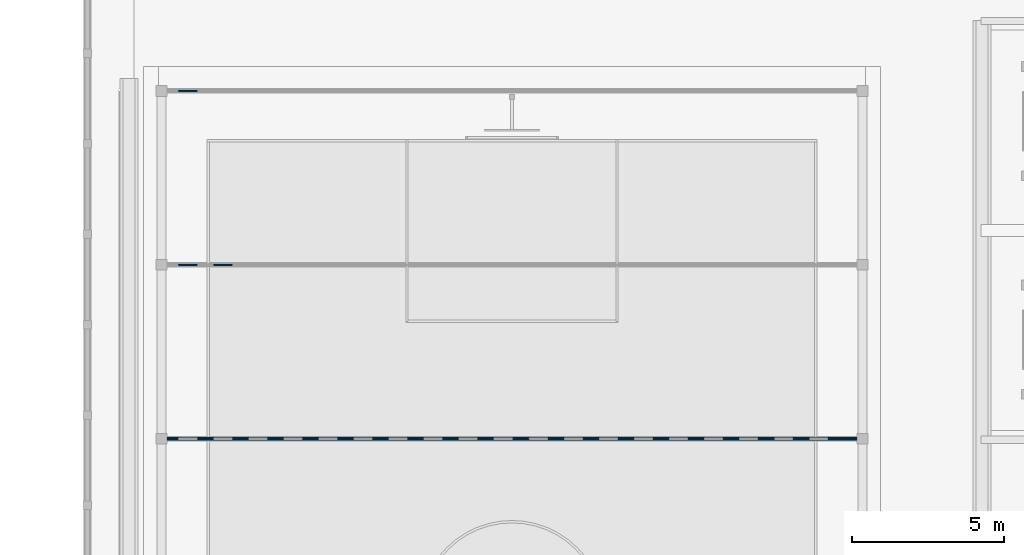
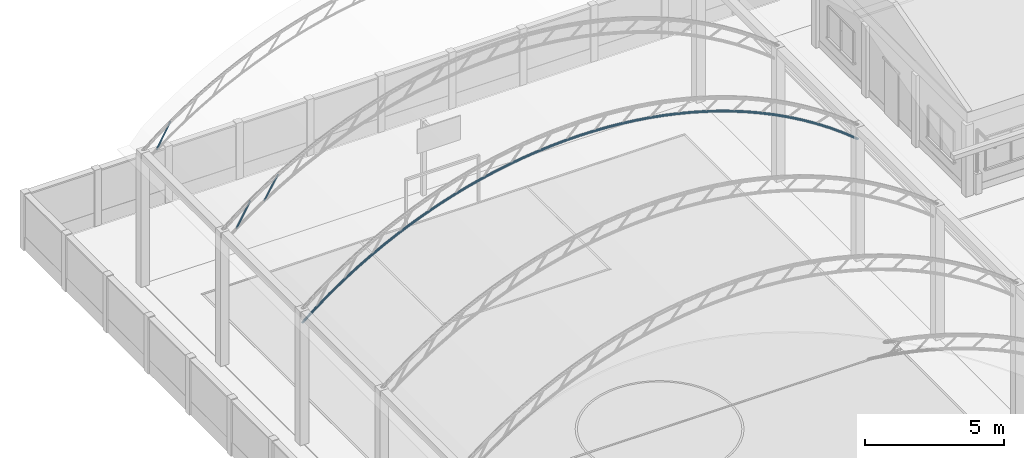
# One storey, part 28 of 177: 4 beams.
"""IFC4 building model written with IfcOpenShell, lengths in metres."""

from ifc_helpers import new_model, si_unit, origin, origin_with_axes, place, context, subcontext, project, spatial, triangles, element, save


model = new_model("IFC4")

# Units and contexts
model_context = context("Model", 3, precision=1e-05, world=origin_with_axes())
body_context = subcontext(model_context, "Body", "Model", "MODEL_VIEW")
ifc_project = project(units=[si_unit("LENGTHUNIT", "METRE"), si_unit("AREAUNIT", "SQUARE_METRE"), si_unit("VOLUMEUNIT", "CUBIC_METRE"), si_unit("PLANEANGLEUNIT", "RADIAN")], contexts=[model_context])

# Site, building, storey
site_placement = place(None, origin_with_axes())
site = spatial("IfcSite", under=ifc_project, at=site_placement, Name="Predio Los Mangos - Morales, San Martín", CompositionType="ELEMENT")
building_placement = place(site_placement, origin())
building = spatial("IfcBuilding", under=site, at=building_placement, Name="Hogar de Refugio Temporal", CompositionType="ELEMENT")
storey_placement = place(building_placement, origin())
storey = spatial("IfcBuildingStorey", under=building, at=storey_placement, Name="NIVEL 1 (NPT +0.00)", CompositionType="ELEMENT", Elevation=0.0)

# Beams
beam_1_placement = place(storey_placement, origin())
element("IfcBeam", 1, at=beam_1_placement, inside=storey, Name="arco", ObjectType="Viga", PredefinedType="BEAM", context=body_context, shape_type="Tessellation", body=[
    triangles([(3.4843, 115.5766, 5.3695), (3.4729, 115.5583, 5.3838), (3.4687, 115.5333, 5.389), (3.4729, 115.5083, 5.3838), (3.4843, 115.49, 5.3695), (3.5, 115.4833, 5.35), (3.5157, 115.49, 5.3305), (3.5271, 115.5083, 5.3162), (3.5313, 115.5333, 5.311), (3.5271, 115.5583, 5.3162), (3.5157, 115.5766, 5.3305), (3.5, 115.5833, 5.35), (4.0622, 115.5766, 5.8339), (4.0511, 115.5583, 5.8484), (4.047, 115.5333, 5.8537), (4.0511, 115.5083, 5.8484), (4.0622, 115.49, 5.8339), (4.0775, 115.4833, 5.8141), (4.0928, 115.49, 5.7943), (4.1039, 115.5083, 5.7798), (4.108, 115.5333, 5.7745), (4.1039, 115.5583, 5.7798), (4.0928, 115.5766, 5.7943), (4.0775, 115.5833, 5.8141), (4.6405, 115.5766, 6.2612), (4.63, 115.5583, 6.2761), (4.6261, 115.5333, 6.2816), (4.63, 115.5083, 6.2761), (4.6405, 115.49, 6.2612), (4.655, 115.4833, 6.2408), (4.6695, 115.49, 6.2204), (4.68, 115.5083, 6.2055), (4.6839, 115.5333, 6.2), (4.68, 115.5583, 6.2055), (4.6695, 115.5766, 6.2204), (4.655, 115.5833, 6.2408), (5.2188, 115.5766, 6.6543), (5.2088, 115.5583, 6.6696), (5.2052, 115.5333, 6.6752), (5.2088, 115.5083, 6.6696), (5.2188, 115.49, 6.6543), (5.2325, 115.4833, 6.6333), (5.2462, 115.49, 6.6124), (5.2562, 115.5083, 6.5971), (5.2598, 115.5333, 6.5915), (5.2562, 115.5583, 6.5971), (5.2462, 115.5766, 6.6124), (5.2325, 115.5833, 6.6333), (5.7971, 115.5766, 7.0157), (5.7877, 115.5583, 7.0314), (5.7843, 115.5333, 7.0372), (5.7877, 115.5083, 7.0314), (5.7971, 115.49, 7.0157), (5.81, 115.4833, 6.9943), (5.8229, 115.49, 6.9729), (5.8323, 115.5083, 6.9572), (5.8357, 115.5333, 6.9514), (5.8323, 115.5583, 6.9572), (5.8229, 115.5766, 6.9729), (5.81, 115.5833, 6.9943), (6.3755, 115.5766, 7.3478), (6.3666, 115.5583, 7.3638), (6.3634, 115.5333, 7.3697), (6.3666, 115.5083, 7.3638), (6.3755, 115.49, 7.3478), (6.3875, 115.4833, 7.3259), (6.3995, 115.49, 7.304), (6.4084, 115.5083, 7.2879), (6.4116, 115.5333, 7.282), (6.4084, 115.5583, 7.2879), (6.3995, 115.5766, 7.304), (6.3875, 115.5833, 7.3259), (6.9538, 115.5766, 7.6522), (6.9455, 115.5583, 7.6685), (6.9425, 115.5333, 7.6745), (6.9455, 115.5083, 7.6685), (6.9538, 115.49, 7.6522), (6.965, 115.4833, 7.6298), (6.9762, 115.49, 7.6075), (6.9845, 115.5083, 7.5912), (6.9875, 115.5333, 7.5852), (6.9845, 115.5583, 7.5912), (6.9762, 115.5766, 7.6075), (6.965, 115.5833, 7.6298), (7.5321, 115.5766, 7.9305), (7.5244, 115.5583, 7.9471), (7.5216, 115.5333, 7.9532), (7.5244, 115.5083, 7.9471), (7.5321, 115.49, 7.9305), (7.5425, 115.4833, 7.9077), (7.5529, 115.49, 7.885), (7.5606, 115.5083, 7.8684), (7.5634, 115.5333, 7.8623), (7.5606, 115.5583, 7.8684), (7.5529, 115.5766, 7.885), (7.5425, 115.5833, 7.9077), (8.1104, 115.5766, 8.184), (8.1033, 115.5583, 8.2009), (8.1007, 115.5333, 8.2071), (8.1033, 115.5083, 8.2009), (8.1104, 115.49, 8.184), (8.12, 115.4833, 8.1609), (8.1296, 115.49, 8.1379), (8.1367, 115.5083, 8.121), (8.1393, 115.5333, 8.1148), (8.1367, 115.5583, 8.121), (8.1296, 115.5766, 8.1379), (8.12, 115.5833, 8.1609), (8.6887, 115.5766, 8.4139), (8.6822, 115.5583, 8.431), (8.6798, 115.5333, 8.4373), (8.6822, 115.5083, 8.431), (8.6887, 115.49, 8.4139), (8.6975, 115.4833, 8.3905), (8.7063, 115.49, 8.3671), (8.7128, 115.5083, 8.35), (8.7152, 115.5333, 8.3437), (8.7128, 115.5583, 8.35), (8.7063, 115.5766, 8.3671), (8.6975, 115.5833, 8.3905), (9.267, 115.5766, 8.6211), (9.2611, 115.5583, 8.6384), (9.2589, 115.5333, 8.6447), (9.2611, 115.5083, 8.6384), (9.267, 115.49, 8.6211), (9.275, 115.4833, 8.5974), (9.283, 115.49, 8.5737), (9.2889, 115.5083, 8.5564), (9.2911, 115.5333, 8.55), (9.2889, 115.5583, 8.5564), (9.283, 115.5766, 8.5737), (9.275, 115.5833, 8.5974), (9.8453, 115.5766, 8.8064), (9.84, 115.5583, 8.8239), (9.838, 115.5333, 8.8303), (9.84, 115.5083, 8.8239), (9.8453, 115.49, 8.8064), (9.8525, 115.4833, 8.7824), (9.8597, 115.49, 8.7585), (9.865, 115.5083, 8.741), (9.867, 115.5333, 8.7346), (9.865, 115.5583, 8.741), (9.8597, 115.5766, 8.7585), (9.8525, 115.5833, 8.7824), (10.4236, 115.5766, 8.9705), (10.4189, 115.5583, 8.9882), (10.4172, 115.5333, 8.9947), (10.4189, 115.5083, 8.9882), (10.4236, 115.49, 8.9705), (10.43, 115.4833, 8.9463), (10.4364, 115.49, 8.9222), (10.4411, 115.5083, 8.9045), (10.4429, 115.5333, 8.898), (10.4411, 115.5583, 8.9045), (10.4364, 115.5766, 8.9222), (10.43, 115.5833, 8.9463), (11.0019, 115.5766, 9.1141), (10.9978, 115.5583, 9.1319), (10.9963, 115.5333, 9.1384), (10.9978, 115.5083, 9.1319), (11.0019, 115.49, 9.1141), (11.0075, 115.4833, 9.0897), (11.0131, 115.49, 9.0653), (11.0172, 115.5083, 9.0475), (11.0187, 115.5333, 9.041), (11.0172, 115.5583, 9.0475), (11.0131, 115.5766, 9.0653), (11.0075, 115.5833, 9.0897), (11.5802, 115.5766, 9.2375), (11.5767, 115.5583, 9.2555), (11.5754, 115.5333, 9.2621), (11.5767, 115.5083, 9.2555), (11.5802, 115.49, 9.2375), (11.585, 115.4833, 9.213), (11.5898, 115.49, 9.1885), (11.5933, 115.5083, 9.1705), (11.5946, 115.5333, 9.1639), (11.5933, 115.5583, 9.1705), (11.5898, 115.5766, 9.1885), (11.585, 115.5833, 9.213), (12.1585, 115.5766, 9.3413), (12.1555, 115.5583, 9.3594), (12.1545, 115.5333, 9.366), (12.1555, 115.5083, 9.3594), (12.1585, 115.49, 9.3413), (12.1625, 115.4833, 9.3166), (12.1665, 115.49, 9.292), (12.1695, 115.5083, 9.2739), (12.1705, 115.5333, 9.2673), (12.1695, 115.5583, 9.2739), (12.1665, 115.5766, 9.292), (12.1625, 115.5833, 9.3166), (12.7368, 115.5766, 9.4258), (12.7344, 115.5583, 9.4439), (12.7336, 115.5333, 9.4506), (12.7344, 115.5083, 9.4439), (12.7368, 115.49, 9.4258), (12.74, 115.4833, 9.401), (12.7432, 115.49, 9.3762), (12.7456, 115.5083, 9.3581), (12.7464, 115.5333, 9.3514), (12.7456, 115.5583, 9.3581), (12.7432, 115.5766, 9.3762), (12.74, 115.5833, 9.401), (13.3151, 115.5766, 9.4912), (13.3133, 115.5583, 9.5094), (13.3127, 115.5333, 9.5161), (13.3133, 115.5083, 9.5094), (13.3151, 115.49, 9.4912), (13.3175, 115.4833, 9.4663), (13.3199, 115.49, 9.4415), (13.3217, 115.5083, 9.4232), (13.3223, 115.5333, 9.4166), (13.3217, 115.5583, 9.4232), (13.3199, 115.5766, 9.4415), (13.3175, 115.5833, 9.4663), (13.8934, 115.5766, 9.5378), (13.8922, 115.5583, 9.5561), (13.8918, 115.5333, 9.5628), (13.8922, 115.5083, 9.5561), (13.8934, 115.49, 9.5378), (13.895, 115.4833, 9.5129), (13.8966, 115.49, 9.4879), (13.8978, 115.5083, 9.4697), (13.8982, 115.5333, 9.463), (13.8978, 115.5583, 9.4697), (13.8966, 115.5766, 9.4879), (13.895, 115.5833, 9.5129), (14.4717, 115.5766, 9.5657), (14.4711, 115.5583, 9.584), (14.4709, 115.5333, 9.5907), (14.4711, 115.5083, 9.584), (14.4717, 115.49, 9.5657), (14.4725, 115.4833, 9.5407), (14.4733, 115.49, 9.5157), (14.4739, 115.5083, 9.4974), (14.4741, 115.5333, 9.4907), (14.4739, 115.5583, 9.4974), (14.4733, 115.5766, 9.5157), (14.4725, 115.5833, 9.5407), (15.05, 115.5766, 9.575), (15.05, 115.5583, 9.5933), (15.05, 115.5333, 9.6), (15.05, 115.5083, 9.5933), (15.05, 115.49, 9.575), (15.05, 115.4833, 9.55), (15.05, 115.49, 9.525), (15.05, 115.5083, 9.5067), (15.05, 115.5333, 9.5), (15.05, 115.5583, 9.5067), (15.05, 115.5766, 9.525), (15.05, 115.5833, 9.55), (15.6283, 115.5766, 9.5657), (15.6289, 115.5583, 9.584), (15.6291, 115.5333, 9.5907), (15.6289, 115.5083, 9.584), (15.6283, 115.49, 9.5657), (15.6275, 115.4833, 9.5407), (15.6267, 115.49, 9.5157), (15.6261, 115.5083, 9.4974), (15.6259, 115.5333, 9.4907), (15.6261, 115.5583, 9.4974), (15.6267, 115.5766, 9.5157), (15.6275, 115.5833, 9.5407), (16.2066, 115.5766, 9.5378), (16.2078, 115.5583, 9.5561), (16.2082, 115.5333, 9.5628), (16.2078, 115.5083, 9.5561), (16.2066, 115.49, 9.5378), (16.205, 115.4833, 9.5129), (16.2034, 115.49, 9.4879), (16.2022, 115.5083, 9.4697), (16.2018, 115.5333, 9.463), (16.2022, 115.5583, 9.4697), (16.2034, 115.5766, 9.4879), (16.205, 115.5833, 9.5129), (16.7849, 115.5766, 9.4912), (16.7867, 115.5583, 9.5094), (16.7873, 115.5333, 9.5161), (16.7867, 115.5083, 9.5094), (16.7849, 115.49, 9.4912), (16.7825, 115.4833, 9.4663), (16.7801, 115.49, 9.4415), (16.7783, 115.5083, 9.4232), (16.7777, 115.5333, 9.4166), (16.7783, 115.5583, 9.4232), (16.7801, 115.5766, 9.4415), (16.7825, 115.5833, 9.4663), (17.3632, 115.5766, 9.4258), (17.3656, 115.5583, 9.4439), (17.3664, 115.5333, 9.4506), (17.3656, 115.5083, 9.4439), (17.3632, 115.49, 9.4258), (17.36, 115.4833, 9.401), (17.3568, 115.49, 9.3762), (17.3544, 115.5083, 9.3581), (17.3536, 115.5333, 9.3514), (17.3544, 115.5583, 9.3581), (17.3568, 115.5766, 9.3762), (17.36, 115.5833, 9.401), (17.9415, 115.5766, 9.3413), (17.9445, 115.5583, 9.3594), (17.9455, 115.5333, 9.366), (17.9445, 115.5083, 9.3594), (17.9415, 115.49, 9.3413), (17.9375, 115.4833, 9.3166), (17.9335, 115.49, 9.292), (17.9305, 115.5083, 9.2739), (17.9295, 115.5333, 9.2673), (17.9305, 115.5583, 9.2739), (17.9335, 115.5766, 9.292), (17.9375, 115.5833, 9.3166), (18.5198, 115.5766, 9.2375), (18.5233, 115.5583, 9.2555), (18.5246, 115.5333, 9.2621), (18.5233, 115.5083, 9.2555), (18.5198, 115.49, 9.2375), (18.515, 115.4833, 9.213), (18.5102, 115.49, 9.1885), (18.5067, 115.5083, 9.1705), (18.5054, 115.5333, 9.1639), (18.5067, 115.5583, 9.1705), (18.5102, 115.5766, 9.1885), (18.515, 115.5833, 9.213), (19.0981, 115.5766, 9.1141), (19.1022, 115.5583, 9.1319), (19.1037, 115.5333, 9.1384), (19.1022, 115.5083, 9.1319), (19.0981, 115.49, 9.1141), (19.0925, 115.4833, 9.0897), (19.0869, 115.49, 9.0653), (19.0828, 115.5083, 9.0475), (19.0813, 115.5333, 9.041), (19.0828, 115.5583, 9.0475), (19.0869, 115.5766, 9.0653), (19.0925, 115.5833, 9.0897), (19.6764, 115.5766, 8.9705), (19.6811, 115.5583, 8.9882), (19.6828, 115.5333, 8.9947), (19.6811, 115.5083, 8.9882), (19.6764, 115.49, 8.9705), (19.67, 115.4833, 8.9463), (19.6636, 115.49, 8.9222), (19.6589, 115.5083, 8.9045), (19.6572, 115.5333, 8.898), (19.6589, 115.5583, 8.9045), (19.6636, 115.5766, 8.9222), (19.67, 115.5833, 8.9463), (20.2547, 115.5766, 8.8064), (20.26, 115.5583, 8.8239), (20.262, 115.5333, 8.8303), (20.26, 115.5083, 8.8239), (20.2547, 115.49, 8.8064), (20.2475, 115.4833, 8.7824), (20.2403, 115.49, 8.7585), (20.235, 115.5083, 8.741), (20.233, 115.5333, 8.7346), (20.235, 115.5583, 8.741), (20.2403, 115.5766, 8.7585), (20.2475, 115.5833, 8.7824), (20.833, 115.5766, 8.6211), (20.8389, 115.5583, 8.6384), (20.8411, 115.5333, 8.6447), (20.8389, 115.5083, 8.6384), (20.833, 115.49, 8.6211), (20.825, 115.4833, 8.5974), (20.817, 115.49, 8.5737), (20.8111, 115.5083, 8.5564), (20.8089, 115.5333, 8.55), (20.8111, 115.5583, 8.5564), (20.817, 115.5766, 8.5737), (20.825, 115.5833, 8.5974), (21.4113, 115.5766, 8.4139), (21.4178, 115.5583, 8.431), (21.4202, 115.5333, 8.4373), (21.4178, 115.5083, 8.431), (21.4113, 115.49, 8.4139), (21.4025, 115.4833, 8.3905), (21.3937, 115.49, 8.3671), (21.3872, 115.5083, 8.35), (21.3848, 115.5333, 8.3437), (21.3872, 115.5583, 8.35), (21.3937, 115.5766, 8.3671), (21.4025, 115.5833, 8.3905), (21.9896, 115.5766, 8.184), (21.9967, 115.5583, 8.2009), (21.9993, 115.5333, 8.2071), (21.9967, 115.5083, 8.2009), (21.9896, 115.49, 8.184), (21.98, 115.4833, 8.1609), (21.9704, 115.49, 8.1379), (21.9633, 115.5083, 8.121), (21.9607, 115.5333, 8.1148), (21.9633, 115.5583, 8.121), (21.9704, 115.5766, 8.1379), (21.98, 115.5833, 8.1609), (22.5679, 115.5766, 7.9305), (22.5756, 115.5583, 7.9471), (22.5784, 115.5333, 7.9532), (22.5756, 115.5083, 7.9471), (22.5679, 115.49, 7.9305), (22.5575, 115.4833, 7.9077), (22.5471, 115.49, 7.885), (22.5394, 115.5083, 7.8684), (22.5366, 115.5333, 7.8623), (22.5394, 115.5583, 7.8684), (22.5471, 115.5766, 7.885), (22.5575, 115.5833, 7.9077), (23.1462, 115.5766, 7.6522), (23.1545, 115.5583, 7.6685), (23.1575, 115.5333, 7.6745), (23.1545, 115.5083, 7.6685), (23.1462, 115.49, 7.6522), (23.135, 115.4833, 7.6298), (23.1238, 115.49, 7.6075), (23.1155, 115.5083, 7.5912), (23.1125, 115.5333, 7.5852), (23.1155, 115.5583, 7.5912), (23.1238, 115.5766, 7.6075), (23.135, 115.5833, 7.6298), (23.7245, 115.5766, 7.3478), (23.7334, 115.5583, 7.3638), (23.7366, 115.5333, 7.3697), (23.7334, 115.5083, 7.3638), (23.7245, 115.49, 7.3478), (23.7125, 115.4833, 7.3259), (23.7005, 115.49, 7.304), (23.6916, 115.5083, 7.2879), (23.6884, 115.5333, 7.282), (23.6916, 115.5583, 7.2879), (23.7005, 115.5766, 7.304), (23.7125, 115.5833, 7.3259), (24.3029, 115.5766, 7.0157), (24.3123, 115.5583, 7.0314), (24.3157, 115.5333, 7.0372), (24.3123, 115.5083, 7.0314), (24.3029, 115.49, 7.0157), (24.29, 115.4833, 6.9943), (24.2771, 115.49, 6.9729), (24.2677, 115.5083, 6.9572), (24.2643, 115.5333, 6.9514), (24.2677, 115.5583, 6.9572), (24.2771, 115.5766, 6.9729), (24.29, 115.5833, 6.9943), (24.8812, 115.5766, 6.6543), (24.8912, 115.5583, 6.6696), (24.8948, 115.5333, 6.6752), (24.8912, 115.5083, 6.6696), (24.8812, 115.49, 6.6543), (24.8675, 115.4833, 6.6333), (24.8538, 115.49, 6.6124), (24.8438, 115.5083, 6.5971), (24.8402, 115.5333, 6.5915), (24.8438, 115.5583, 6.5971), (24.8538, 115.5766, 6.6124), (24.8675, 115.5833, 6.6333), (25.4595, 115.5766, 6.2612), (25.47, 115.5583, 6.2761), (25.4739, 115.5333, 6.2816), (25.47, 115.5083, 6.2761), (25.4595, 115.49, 6.2612), (25.445, 115.4833, 6.2408), (25.4305, 115.49, 6.2204), (25.42, 115.5083, 6.2055), (25.4161, 115.5333, 6.2), (25.42, 115.5583, 6.2055), (25.4305, 115.5766, 6.2204), (25.445, 115.5833, 6.2408), (26.0378, 115.5766, 5.8339), (26.0489, 115.5583, 5.8484), (26.053, 115.5333, 5.8537), (26.0489, 115.5083, 5.8484), (26.0378, 115.49, 5.8339), (26.0225, 115.4833, 5.8141), (26.0072, 115.49, 5.7943), (25.9961, 115.5083, 5.7798), (25.992, 115.5333, 5.7745), (25.9961, 115.5583, 5.7798), (26.0072, 115.5766, 5.7943), (26.0225, 115.5833, 5.8141), (26.6157, 115.5766, 5.3695), (26.6271, 115.5583, 5.3838), (26.6313, 115.5333, 5.389), (26.6271, 115.5083, 5.3838), (26.6157, 115.49, 5.3695), (26.6, 115.4833, 5.35), (26.5843, 115.49, 5.3305), (26.5729, 115.5083, 5.3162), (26.5687, 115.5333, 5.311), (26.5729, 115.5583, 5.3162), (26.5843, 115.5766, 5.3305), (26.6, 115.5833, 5.35)], [[1, 13, 24], [1, 24, 12], [2, 14, 13], [2, 13, 1], [3, 15, 14], [3, 14, 2], [4, 16, 15], [4, 15, 3], [5, 17, 16], [5, 16, 4], [6, 18, 17], [6, 17, 5], [7, 19, 18], [7, 18, 6], [8, 20, 19], [8, 19, 7], [9, 21, 20], [9, 20, 8], [10, 22, 21], [10, 21, 9], [11, 23, 22], [11, 22, 10], [12, 24, 23], [12, 23, 11], [13, 25, 36], [13, 36, 24], [14, 26, 25], [14, 25, 13], [15, 27, 26], [15, 26, 14], [16, 28, 27], [16, 27, 15], [17, 29, 28], [17, 28, 16], [18, 30, 29], [18, 29, 17], [19, 31, 30], [19, 30, 18], [20, 32, 31], [20, 31, 19], [21, 33, 32], [21, 32, 20], [22, 34, 33], [22, 33, 21], [23, 35, 34], [23, 34, 22], [24, 36, 35], [24, 35, 23], [25, 37, 48], [25, 48, 36], [26, 38, 37], [26, 37, 25], [27, 39, 38], [27, 38, 26], [28, 40, 39], [28, 39, 27], [29, 41, 40], [29, 40, 28], [30, 42, 41], [30, 41, 29], [31, 43, 42], [31, 42, 30], [32, 44, 43], [32, 43, 31], [33, 45, 44], [33, 44, 32], [34, 46, 45], [34, 45, 33], [35, 47, 46], [35, 46, 34], [36, 48, 47], [36, 47, 35], [37, 49, 60], [37, 60, 48], [38, 50, 49], [38, 49, 37], [39, 51, 50], [39, 50, 38], [40, 52, 51], [40, 51, 39], [41, 53, 52], [41, 52, 40], [42, 54, 53], [42, 53, 41], [43, 55, 54], [43, 54, 42], [44, 56, 55], [44, 55, 43], [45, 57, 56], [45, 56, 44], [46, 58, 57], [46, 57, 45], [47, 59, 58], [47, 58, 46], [48, 60, 59], [48, 59, 47], [49, 61, 72], [49, 72, 60], [50, 62, 61], [50, 61, 49], [51, 63, 62], [51, 62, 50], [52, 64, 63], [52, 63, 51], [53, 65, 64], [53, 64, 52], [54, 66, 65], [54, 65, 53], [55, 67, 66], [55, 66, 54], [56, 68, 67], [56, 67, 55], [57, 69, 68], [57, 68, 56], [58, 70, 69], [58, 69, 57], [59, 71, 70], [59, 70, 58], [60, 72, 71], [60, 71, 59], [61, 73, 84], [61, 84, 72], [62, 74, 73], [62, 73, 61], [63, 75, 74], [63, 74, 62], [64, 76, 75], [64, 75, 63], [65, 77, 76], [65, 76, 64], [66, 78, 77], [66, 77, 65], [67, 79, 78], [67, 78, 66], [68, 80, 79], [68, 79, 67], [69, 81, 80], [69, 80, 68], [70, 82, 81], [70, 81, 69], [71, 83, 82], [71, 82, 70], [72, 84, 83], [72, 83, 71], [73, 85, 96], [73, 96, 84], [74, 86, 85], [74, 85, 73], [75, 87, 86], [75, 86, 74], [76, 88, 87], [76, 87, 75], [77, 89, 88], [77, 88, 76], [78, 90, 89], [78, 89, 77], [79, 91, 90], [79, 90, 78], [80, 92, 91], [80, 91, 79], [81, 93, 92], [81, 92, 80], [82, 94, 93], [82, 93, 81], [83, 95, 94], [83, 94, 82], [84, 96, 95], [84, 95, 83], [85, 97, 108], [85, 108, 96], [86, 98, 97], [86, 97, 85], [87, 99, 98], [87, 98, 86], [88, 100, 99], [88, 99, 87], [89, 101, 100], [89, 100, 88], [90, 102, 101], [90, 101, 89], [91, 103, 102], [91, 102, 90], [92, 104, 103], [92, 103, 91], [93, 105, 104], [93, 104, 92], [94, 106, 105], [94, 105, 93], [95, 107, 106], [95, 106, 94], [96, 108, 107], [96, 107, 95], [97, 109, 120], [97, 120, 108], [98, 110, 109], [98, 109, 97], [99, 111, 110], [99, 110, 98], [100, 112, 111], [100, 111, 99], [101, 113, 112], [101, 112, 100], [102, 114, 113], [102, 113, 101], [103, 115, 114], [103, 114, 102], [104, 116, 115], [104, 115, 103], [105, 117, 116], [105, 116, 104], [106, 118, 117], [106, 117, 105], [107, 119, 118], [107, 118, 106], [108, 120, 119], [108, 119, 107], [109, 121, 132], [109, 132, 120], [110, 122, 121], [110, 121, 109], [111, 123, 122], [111, 122, 110], [112, 124, 123], [112, 123, 111], [113, 125, 124], [113, 124, 112], [114, 126, 125], [114, 125, 113], [115, 127, 126], [115, 126, 114], [116, 128, 127], [116, 127, 115], [117, 129, 128], [117, 128, 116], [118, 130, 129], [118, 129, 117], [119, 131, 130], [119, 130, 118], [120, 132, 131], [120, 131, 119], [121, 133, 144], [121, 144, 132], [122, 134, 133], [122, 133, 121], [123, 135, 134], [123, 134, 122], [124, 136, 135], [124, 135, 123], [125, 137, 136], [125, 136, 124], [126, 138, 137], [126, 137, 125], [127, 139, 138], [127, 138, 126], [128, 140, 139], [128, 139, 127], [129, 141, 140], [129, 140, 128], [130, 142, 141], [130, 141, 129], [131, 143, 142], [131, 142, 130], [132, 144, 143], [132, 143, 131], [133, 145, 156], [133, 156, 144], [134, 146, 145], [134, 145, 133], [135, 147, 146], [135, 146, 134], [136, 148, 147], [136, 147, 135], [137, 149, 148], [137, 148, 136], [138, 150, 149], [138, 149, 137], [139, 151, 150], [139, 150, 138], [140, 152, 151], [140, 151, 139], [141, 153, 152], [141, 152, 140], [142, 154, 153], [142, 153, 141], [143, 155, 154], [143, 154, 142], [144, 156, 155], [144, 155, 143], [145, 157, 168], [145, 168, 156], [146, 158, 157], [146, 157, 145], [147, 159, 158], [147, 158, 146], [148, 160, 159], [148, 159, 147], [149, 161, 160], [149, 160, 148], [150, 162, 161], [150, 161, 149], [151, 163, 162], [151, 162, 150], [152, 164, 163], [152, 163, 151], [153, 165, 164], [153, 164, 152], [154, 166, 165], [154, 165, 153], [155, 167, 166], [155, 166, 154], [156, 168, 167], [156, 167, 155], [157, 169, 180], [157, 180, 168], [158, 170, 169], [158, 169, 157], [159, 171, 170], [159, 170, 158], [160, 172, 171], [160, 171, 159], [161, 173, 172], [161, 172, 160], [162, 174, 173], [162, 173, 161], [163, 175, 174], [163, 174, 162], [164, 176, 175], [164, 175, 163], [165, 177, 176], [165, 176, 164], [166, 178, 177], [166, 177, 165], [167, 179, 178], [167, 178, 166], [168, 180, 179], [168, 179, 167], [169, 181, 192], [169, 192, 180], [170, 182, 181], [170, 181, 169], [171, 183, 182], [171, 182, 170], [172, 184, 183], [172, 183, 171], [173, 185, 184], [173, 184, 172], [174, 186, 185], [174, 185, 173], [175, 187, 186], [175, 186, 174], [176, 188, 187], [176, 187, 175], [177, 189, 188], [177, 188, 176], [178, 190, 189], [178, 189, 177], [179, 191, 190], [179, 190, 178], [180, 192, 191], [180, 191, 179], [181, 193, 204], [181, 204, 192], [182, 194, 193], [182, 193, 181], [183, 195, 194], [183, 194, 182], [184, 196, 195], [184, 195, 183], [185, 197, 196], [185, 196, 184], [186, 198, 197], [186, 197, 185], [187, 199, 198], [187, 198, 186], [188, 200, 199], [188, 199, 187], [189, 201, 200], [189, 200, 188], [190, 202, 201], [190, 201, 189], [191, 203, 202], [191, 202, 190], [192, 204, 203], [192, 203, 191], [193, 205, 216], [193, 216, 204], [194, 206, 205], [194, 205, 193], [195, 207, 206], [195, 206, 194], [196, 208, 207], [196, 207, 195], [197, 209, 208], [197, 208, 196], [198, 210, 209], [198, 209, 197], [199, 211, 210], [199, 210, 198], [200, 212, 211], [200, 211, 199], [201, 213, 212], [201, 212, 200], [202, 214, 213], [202, 213, 201], [203, 215, 214], [203, 214, 202], [204, 216, 215], [204, 215, 203], [205, 217, 228], [205, 228, 216], [206, 218, 217], [206, 217, 205], [207, 219, 218], [207, 218, 206], [208, 220, 219], [208, 219, 207], [209, 221, 220], [209, 220, 208], [210, 222, 221], [210, 221, 209], [211, 223, 222], [211, 222, 210], [212, 224, 223], [212, 223, 211], [213, 225, 224], [213, 224, 212], [214, 226, 225], [214, 225, 213], [215, 227, 226], [215, 226, 214], [216, 228, 227], [216, 227, 215], [217, 229, 240], [217, 240, 228], [218, 230, 229], [218, 229, 217], [219, 231, 230], [219, 230, 218], [220, 232, 231], [220, 231, 219], [221, 233, 232], [221, 232, 220], [222, 234, 233], [222, 233, 221], [223, 235, 234], [223, 234, 222], [224, 236, 235], [224, 235, 223], [225, 237, 236], [225, 236, 224], [226, 238, 237], [226, 237, 225], [227, 239, 238], [227, 238, 226], [228, 240, 239], [228, 239, 227], [229, 241, 252], [229, 252, 240], [230, 242, 241], [230, 241, 229], [231, 243, 242], [231, 242, 230], [232, 244, 243], [232, 243, 231], [233, 245, 244], [233, 244, 232], [234, 246, 245], [234, 245, 233], [235, 247, 246], [235, 246, 234], [236, 248, 247], [236, 247, 235], [237, 249, 248], [237, 248, 236], [238, 250, 249], [238, 249, 237], [239, 251, 250], [239, 250, 238], [240, 252, 251], [240, 251, 239], [241, 253, 264], [241, 264, 252], [242, 254, 253], [242, 253, 241], [243, 255, 254], [243, 254, 242], [244, 256, 255], [244, 255, 243], [245, 257, 256], [245, 256, 244], [246, 258, 257], [246, 257, 245], [247, 259, 258], [247, 258, 246], [248, 260, 259], [248, 259, 247], [249, 261, 260], [249, 260, 248], [250, 262, 261], [250, 261, 249], [251, 263, 262], [251, 262, 250], [252, 264, 263], [252, 263, 251], [253, 265, 276], [253, 276, 264], [254, 266, 265], [254, 265, 253], [255, 267, 266], [255, 266, 254], [256, 268, 267], [256, 267, 255], [257, 269, 268], [257, 268, 256], [258, 270, 269], [258, 269, 257], [259, 271, 270], [259, 270, 258], [260, 272, 271], [260, 271, 259], [261, 273, 272], [261, 272, 260], [262, 274, 273], [262, 273, 261], [263, 275, 274], [263, 274, 262], [264, 276, 275], [264, 275, 263], [265, 277, 288], [265, 288, 276], [266, 278, 277], [266, 277, 265], [267, 279, 278], [267, 278, 266], [268, 280, 279], [268, 279, 267], [269, 281, 280], [269, 280, 268], [270, 282, 281], [270, 281, 269], [271, 283, 282], [271, 282, 270], [272, 284, 283], [272, 283, 271], [273, 285, 284], [273, 284, 272], [274, 286, 285], [274, 285, 273], [275, 287, 286], [275, 286, 274], [276, 288, 287], [276, 287, 275], [277, 289, 300], [277, 300, 288], [278, 290, 289], [278, 289, 277], [279, 291, 290], [279, 290, 278], [280, 292, 291], [280, 291, 279], [281, 293, 292], [281, 292, 280], [282, 294, 293], [282, 293, 281], [283, 295, 294], [283, 294, 282], [284, 296, 295], [284, 295, 283], [285, 297, 296], [285, 296, 284], [286, 298, 297], [286, 297, 285], [287, 299, 298], [287, 298, 286], [288, 300, 299], [288, 299, 287], [289, 301, 312], [289, 312, 300], [290, 302, 301], [290, 301, 289], [291, 303, 302], [291, 302, 290], [292, 304, 303], [292, 303, 291], [293, 305, 304], [293, 304, 292], [294, 306, 305], [294, 305, 293], [295, 307, 306], [295, 306, 294], [296, 308, 307], [296, 307, 295], [297, 309, 308], [297, 308, 296], [298, 310, 309], [298, 309, 297], [299, 311, 310], [299, 310, 298], [300, 312, 311], [300, 311, 299], [301, 313, 324], [301, 324, 312], [302, 314, 313], [302, 313, 301], [303, 315, 314], [303, 314, 302], [304, 316, 315], [304, 315, 303], [305, 317, 316], [305, 316, 304], [306, 318, 317], [306, 317, 305], [307, 319, 318], [307, 318, 306], [308, 320, 319], [308, 319, 307], [309, 321, 320], [309, 320, 308], [310, 322, 321], [310, 321, 309], [311, 323, 322], [311, 322, 310], [312, 324, 323], [312, 323, 311], [313, 325, 336], [313, 336, 324], [314, 326, 325], [314, 325, 313], [315, 327, 326], [315, 326, 314], [316, 328, 327], [316, 327, 315], [317, 329, 328], [317, 328, 316], [318, 330, 329], [318, 329, 317], [319, 331, 330], [319, 330, 318], [320, 332, 331], [320, 331, 319], [321, 333, 332], [321, 332, 320], [322, 334, 333], [322, 333, 321], [323, 335, 334], [323, 334, 322], [324, 336, 335], [324, 335, 323], [325, 337, 348], [325, 348, 336], [326, 338, 337], [326, 337, 325], [327, 339, 338], [327, 338, 326], [328, 340, 339], [328, 339, 327], [329, 341, 340], [329, 340, 328], [330, 342, 341], [330, 341, 329], [331, 343, 342], [331, 342, 330], [332, 344, 343], [332, 343, 331], [333, 345, 344], [333, 344, 332], [334, 346, 345], [334, 345, 333], [335, 347, 346], [335, 346, 334], [336, 348, 347], [336, 347, 335], [337, 349, 360], [337, 360, 348], [338, 350, 349], [338, 349, 337], [339, 351, 350], [339, 350, 338], [340, 352, 351], [340, 351, 339], [341, 353, 352], [341, 352, 340], [342, 354, 353], [342, 353, 341], [343, 355, 354], [343, 354, 342], [344, 356, 355], [344, 355, 343], [345, 357, 356], [345, 356, 344], [346, 358, 357], [346, 357, 345], [347, 359, 358], [347, 358, 346], [348, 360, 359], [348, 359, 347], [349, 361, 372], [349, 372, 360], [350, 362, 361], [350, 361, 349], [351, 363, 362], [351, 362, 350], [352, 364, 363], [352, 363, 351], [353, 365, 364], [353, 364, 352], [354, 366, 365], [354, 365, 353], [355, 367, 366], [355, 366, 354], [356, 368, 367], [356, 367, 355], [357, 369, 368], [357, 368, 356], [358, 370, 369], [358, 369, 357], [359, 371, 370], [359, 370, 358], [360, 372, 371], [360, 371, 359], [361, 373, 384], [361, 384, 372], [362, 374, 373], [362, 373, 361], [363, 375, 374], [363, 374, 362], [364, 376, 375], [364, 375, 363], [365, 377, 376], [365, 376, 364], [366, 378, 377], [366, 377, 365], [367, 379, 378], [367, 378, 366], [368, 380, 379], [368, 379, 367], [369, 381, 380], [369, 380, 368], [370, 382, 381], [370, 381, 369], [371, 383, 382], [371, 382, 370], [372, 384, 383], [372, 383, 371], [373, 385, 396], [373, 396, 384], [374, 386, 385], [374, 385, 373], [375, 387, 386], [375, 386, 374], [376, 388, 387], [376, 387, 375], [377, 389, 388], [377, 388, 376], [378, 390, 389], [378, 389, 377], [379, 391, 390], [379, 390, 378], [380, 392, 391], [380, 391, 379], [381, 393, 392], [381, 392, 380], [382, 394, 393], [382, 393, 381], [383, 395, 394], [383, 394, 382], [384, 396, 395], [384, 395, 383], [385, 397, 408], [385, 408, 396], [386, 398, 397], [386, 397, 385], [387, 399, 398], [387, 398, 386], [388, 400, 399], [388, 399, 387], [389, 401, 400], [389, 400, 388], [390, 402, 401], [390, 401, 389], [391, 403, 402], [391, 402, 390], [392, 404, 403], [392, 403, 391], [393, 405, 404], [393, 404, 392], [394, 406, 405], [394, 405, 393], [395, 407, 406], [395, 406, 394], [396, 408, 407], [396, 407, 395], [397, 409, 420], [397, 420, 408], [398, 410, 409], [398, 409, 397], [399, 411, 410], [399, 410, 398], [400, 412, 411], [400, 411, 399], [401, 413, 412], [401, 412, 400], [402, 414, 413], [402, 413, 401], [403, 415, 414], [403, 414, 402], [404, 416, 415], [404, 415, 403], [405, 417, 416], [405, 416, 404], [406, 418, 417], [406, 417, 405], [407, 419, 418], [407, 418, 406], [408, 420, 419], [408, 419, 407], [409, 421, 432], [409, 432, 420], [410, 422, 421], [410, 421, 409], [411, 423, 422], [411, 422, 410], [412, 424, 423], [412, 423, 411], [413, 425, 424], [413, 424, 412], [414, 426, 425], [414, 425, 413], [415, 427, 426], [415, 426, 414], [416, 428, 427], [416, 427, 415], [417, 429, 428], [417, 428, 416], [418, 430, 429], [418, 429, 417], [419, 431, 430], [419, 430, 418], [420, 432, 431], [420, 431, 419], [421, 433, 444], [421, 444, 432], [422, 434, 433], [422, 433, 421], [423, 435, 434], [423, 434, 422], [424, 436, 435], [424, 435, 423], [425, 437, 436], [425, 436, 424], [426, 438, 437], [426, 437, 425], [427, 439, 438], [427, 438, 426], [428, 440, 439], [428, 439, 427], [429, 441, 440], [429, 440, 428], [430, 442, 441], [430, 441, 429], [431, 443, 442], [431, 442, 430], [432, 444, 443], [432, 443, 431], [433, 445, 456], [433, 456, 444], [434, 446, 445], [434, 445, 433], [435, 447, 446], [435, 446, 434], [436, 448, 447], [436, 447, 435], [437, 449, 448], [437, 448, 436], [438, 450, 449], [438, 449, 437], [439, 451, 450], [439, 450, 438], [440, 452, 451], [440, 451, 439], [441, 453, 452], [441, 452, 440], [442, 454, 453], [442, 453, 441], [443, 455, 454], [443, 454, 442], [444, 456, 455], [444, 455, 443], [445, 457, 468], [445, 468, 456], [446, 458, 457], [446, 457, 445], [447, 459, 458], [447, 458, 446], [448, 460, 459], [448, 459, 447], [449, 461, 460], [449, 460, 448], [450, 462, 461], [450, 461, 449], [451, 463, 462], [451, 462, 450], [452, 464, 463], [452, 463, 451], [453, 465, 464], [453, 464, 452], [454, 466, 465], [454, 465, 453], [455, 467, 466], [455, 466, 454], [456, 468, 467], [456, 467, 455], [457, 469, 480], [457, 480, 468], [458, 470, 469], [458, 469, 457], [459, 471, 470], [459, 470, 458], [460, 472, 471], [460, 471, 459], [461, 473, 472], [461, 472, 460], [462, 474, 473], [462, 473, 461], [463, 475, 474], [463, 474, 462], [464, 476, 475], [464, 475, 463], [465, 477, 476], [465, 476, 464], [466, 478, 477], [466, 477, 465], [467, 479, 478], [467, 478, 466], [468, 480, 479], [468, 479, 467], [469, 481, 492], [469, 492, 480], [470, 482, 481], [470, 481, 469], [471, 483, 482], [471, 482, 470], [472, 484, 483], [472, 483, 471], [473, 485, 484], [473, 484, 472], [474, 486, 485], [474, 485, 473], [475, 487, 486], [475, 486, 474], [476, 488, 487], [476, 487, 475], [477, 489, 488], [477, 488, 476], [478, 490, 489], [478, 489, 477], [479, 491, 490], [479, 490, 478], [480, 492, 491], [480, 491, 479]]),
])
beam_2_placement = place(storey_placement, origin())
element("IfcBeam", 2, at=beam_2_placement, inside=storey, Name="diag", ObjectType="Viga", PredefinedType="BEAM", context=body_context, shape_type="Tessellation", body=[
    triangles([(4.0666, 121.2883, 5.8202), (4.0586, 121.2792, 5.8247), (4.0557, 121.2667, 5.8263), (4.0586, 121.2542, 5.8247), (4.0666, 121.245, 5.8202), (4.0775, 121.2417, 5.8141), (4.0884, 121.245, 5.808), (4.0964, 121.2542, 5.8035), (4.0993, 121.2667, 5.8018), (4.0964, 121.2792, 5.8035), (4.0884, 121.2883, 5.808), (4.0775, 121.2917, 5.8141), (4.6441, 121.2883, 6.8469), (4.6361, 121.2792, 6.8514), (4.6332, 121.2667, 6.8531), (4.6361, 121.2542, 6.8514), (4.6441, 121.245, 6.8469), (4.655, 121.2417, 6.8408), (4.6659, 121.245, 6.8347), (4.6739, 121.2542, 6.8302), (4.6768, 121.2667, 6.8286), (4.6739, 121.2792, 6.8302), (4.6659, 121.2883, 6.8347), (4.655, 121.2917, 6.8408)], [[1, 13, 24], [1, 24, 12], [2, 14, 13], [2, 13, 1], [3, 15, 14], [3, 14, 2], [4, 16, 15], [4, 15, 3], [5, 17, 16], [5, 16, 4], [6, 18, 17], [6, 17, 5], [7, 19, 18], [7, 18, 6], [8, 20, 19], [8, 19, 7], [9, 21, 20], [9, 20, 8], [10, 22, 21], [10, 21, 9], [11, 23, 22], [11, 22, 10], [12, 24, 23], [12, 23, 11]]),
])
beam_3_placement = place(storey_placement, origin())
element("IfcBeam", 3, at=beam_3_placement, inside=storey, Name="diag", ObjectType="Viga", PredefinedType="BEAM", context=body_context, shape_type="Tessellation", body=[
    triangles([(5.2218, 121.2883, 6.6398), (5.2139, 121.2792, 6.6445), (5.2111, 121.2667, 6.6462), (5.2139, 121.2542, 6.6445), (5.2218, 121.245, 6.6398), (5.2325, 121.2417, 6.6333), (5.2432, 121.245, 6.6269), (5.2511, 121.2542, 6.6222), (5.2539, 121.2667, 6.6205), (5.2511, 121.2792, 6.6222), (5.2432, 121.2883, 6.6269), (5.2325, 121.2917, 6.6333), (5.7993, 121.2883, 7.6007), (5.7914, 121.2792, 7.6055), (5.7886, 121.2667, 7.6072), (5.7914, 121.2542, 7.6055), (5.7993, 121.245, 7.6007), (5.81, 121.2417, 7.5943), (5.8207, 121.245, 7.5879), (5.8286, 121.2542, 7.5832), (5.8314, 121.2667, 7.5814), (5.8286, 121.2792, 7.5832), (5.8207, 121.2883, 7.5879), (5.81, 121.2917, 7.5943)], [[1, 13, 24], [1, 24, 12], [2, 14, 13], [2, 13, 1], [3, 15, 14], [3, 14, 2], [4, 16, 15], [4, 15, 3], [5, 17, 16], [5, 16, 4], [6, 18, 17], [6, 17, 5], [7, 19, 18], [7, 18, 6], [8, 20, 19], [8, 19, 7], [9, 21, 20], [9, 20, 8], [10, 22, 21], [10, 21, 9], [11, 23, 22], [11, 22, 10], [12, 24, 23], [12, 23, 11]]),
])
beam_4_placement = place(storey_placement, origin())
element("IfcBeam", 4, at=beam_4_placement, inside=storey, Name="diag", ObjectType="Viga", PredefinedType="BEAM", context=body_context, shape_type="Tessellation", body=[
    triangles([(4.0666, 127.0217, 5.8202), (4.0586, 127.0125, 5.8247), (4.0557, 127.0, 5.8263), (4.0586, 126.9875, 5.8247), (4.0666, 126.9783, 5.8202), (4.0775, 126.975, 5.8141), (4.0884, 126.9783, 5.808), (4.0964, 126.9875, 5.8035), (4.0993, 127.0, 5.8018), (4.0964, 127.0125, 5.8035), (4.0884, 127.0217, 5.808), (4.0775, 127.025, 5.8141), (4.6441, 127.0217, 6.8469), (4.6361, 127.0125, 6.8514), (4.6332, 127.0, 6.8531), (4.6361, 126.9875, 6.8514), (4.6441, 126.9783, 6.8469), (4.655, 126.975, 6.8408), (4.6659, 126.9783, 6.8347), (4.6739, 126.9875, 6.8302), (4.6768, 127.0, 6.8286), (4.6739, 127.0125, 6.8302), (4.6659, 127.0217, 6.8347), (4.655, 127.025, 6.8408)], [[1, 13, 24], [1, 24, 12], [2, 14, 13], [2, 13, 1], [3, 15, 14], [3, 14, 2], [4, 16, 15], [4, 15, 3], [5, 17, 16], [5, 16, 4], [6, 18, 17], [6, 17, 5], [7, 19, 18], [7, 18, 6], [8, 20, 19], [8, 19, 7], [9, 21, 20], [9, 20, 8], [10, 22, 21], [10, 21, 9], [11, 23, 22], [11, 22, 10], [12, 24, 23], [12, 23, 11]]),
])

save(model, "model.ifc")
